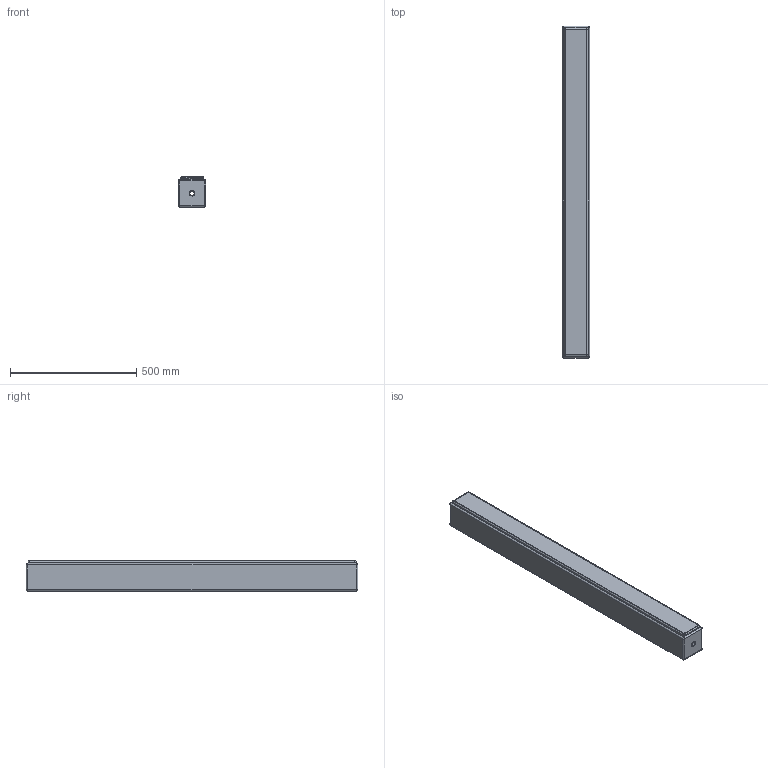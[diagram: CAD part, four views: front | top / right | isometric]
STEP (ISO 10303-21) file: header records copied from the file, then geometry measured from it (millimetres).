
FILE_DESCRIPTION (( 'STEP AP203' ), '1' );
FILE_NAME ('SEEBURG_L16i.STEP', '2012-09-26T09:11:21', ( 'Fabian' ), ( '' ), 'SwSTEP 2.0', 'SolidWorks 2009', '' );
FILE_SCHEMA (( 'CONFIG_CONTROL_DESIGN' ));
Length unit declared in the file: millimetre
Products named in the file (4): SEEBURG_L16i; L16i_Gehäuse_Internet; L16i_Stoffrahmen_Internet; L16i_Rückwand_Internet
Assembly tree (3 placements, depth 2):
  SEEBURG_L16i
    L16i_Stoffrahmen_Internet
    L16i_Gehäuse_Internet
    L16i_Rückwand_Internet
Bounding box: 108 x 1315 x 120 mm (x, y, z)
Volume: 5186645.3 mm3; surface area: 1379000 mm2
Topology: 4 solids, 4 shells, 104 faces, 242 edges, 134 vertices
Faces by surface type: cylinder 38, plane 36, cone 18, sphere 12
Entity records: 3280 total; most frequent: DIRECTION 544, CARTESIAN_POINT 474, ORIENTED_EDGE 460, EDGE_CURVE 230, AXIS2_PLACEMENT_3D 204, VECTOR 136, LINE 136, VERTEX_POINT 134
